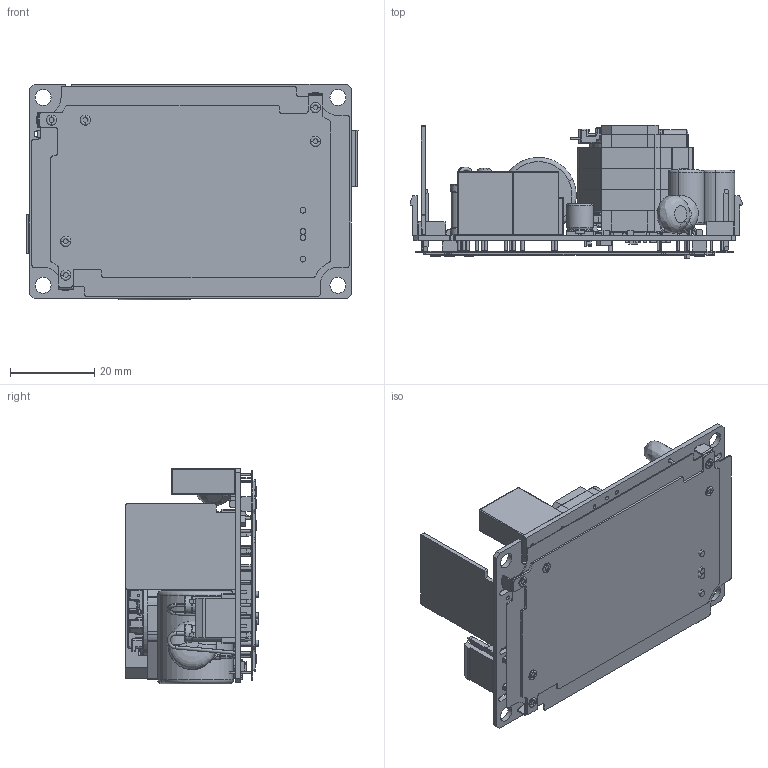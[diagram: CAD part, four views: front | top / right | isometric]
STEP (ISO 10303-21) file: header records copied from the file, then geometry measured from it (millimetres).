
FILE_DESCRIPTION((''),'2;1');
FILE_NAME('0_MEP120A24J_BNA_ASM','2022-03-28T18:36:39',('TONY.CH.YU'),(''),'CREO PARAMETRIC BY PTC INC, 2020454','CREO PARAMETRIC BY PTC INC, 2020454','');
FILE_SCHEMA(('AUTOMOTIVE_DESIGN { 1 0 10303 214 1 1 1 1 }'));
Products named in the file (111): PCB-ASSY_ASM; EDC_0167; PIN_6_0; INSULATOR; AL_METAL; ASM_SHIELD_ASM; BOARD_1; 0915082004_MNTC11_5X5X16D08P5-A; NTC1_ASM; B4P-VH_LF_SN_2_1; 3071125231_JST_B4P_VH_ASM_ASM; CN101_ASM; 140104710108; C102A_ASM; 0311004001_1206-21_1; 0311004001_1206-21_2; 0311004001_1206-21_3; 0311004001_1206-21_4; 0311004001_1206-21_ASM; R53_ASM; _0603-SCE_-_IR0603-R__1; _0603-SCE_-_IR0603-R__2; _0603-SCE_-_IR0603-R__3; _0603-SCE_-_IR0603-R__4; _0603-SCE_-_IR0603-R__ASM; R118_ASM; R117_ASM; R119_ASM; R115_ASM; R110_ASM; R109_ASM; R107_ASM; R106_ASM; 201850570136_IRSOD123_1; 201850570136_IRSOD123_2; 201850570136_IRSOD123_3; 201850570136_IRSOD123_4; 201850570136_IRSOD123_ASM; ZD31_ASM; R101_ASM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
Assembly tree (135 placements, depth 9):
  0_MEP120A24J_BNA_ASM
    PCB-ASSY_ASM
    EDC_0167
    ASM_SHIELD_ASM
      PIN_6_0  x3
      INSULATOR
      AL_METAL
    MEP-120A12J_BNAR3C0_ASM
      PCB_ASM
        BOARD_1
        NTC1_ASM
          0915082004_MNTC11_5X5X16D08P5-A
        CN101_ASM
          3071125231_JST_B4P_VH_ASM_ASM
            B4P-VH_LF_SN_2_1
        C102A_ASM
          140104710108
        R53_ASM
          0311004001_1206-21_ASM
            0311004001_1206-21_1
            0311004001_1206-21_2
            0311004001_1206-21_3
            0311004001_1206-21_4
        R118_ASM
          _0603-SCE_-_IR0603-R__ASM
            _0603-SCE_-_IR0603-R__1
            _0603-SCE_-_IR0603-R__2
            _0603-SCE_-_IR0603-R__3
            _0603-SCE_-_IR0603-R__4
        R117_ASM
          _0603-SCE_-_IR0603-R__ASM
            _0603-SCE_-_IR0603-R__1
            _0603-SCE_-_IR0603-R__2
            _0603-SCE_-_IR0603-R__3
            _0603-SCE_-_IR0603-R__4
        R119_ASM
          _0603-SCE_-_IR0603-R__ASM
            _0603-SCE_-_IR0603-R__1
            _0603-SCE_-_IR0603-R__2
            _0603-SCE_-_IR0603-R__3
            _0603-SCE_-_IR0603-R__4
        R115_ASM
          _0603-SCE_-_IR0603-R__ASM
            _0603-SCE_-_IR0603-R__1
            _0603-SCE_-_IR0603-R__2
            _0603-SCE_-_IR0603-R__3
            _0603-SCE_-_IR0603-R__4
        R110_ASM
          _0603-SCE_-_IR0603-R__ASM
            _0603-SCE_-_IR0603-R__1
            _0603-SCE_-_IR0603-R__2
            _0603-SCE_-_IR0603-R__3
            _0603-SCE_-_IR0603-R__4
        R109_ASM
          _0603-SCE_-_IR0603-R__ASM
            _0603-SCE_-_IR0603-R__1
            _0603-SCE_-_IR0603-R__2
            _0603-SCE_-_IR0603-R__3
            _0603-SCE_-_IR0603-R__4
        R107_ASM
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Bounding box: 78.7 x 31.61 x 51.1 mm (x, y, z)
Volume: 32246.5 mm3; surface area: 54317.2 mm2
Topology: 124 solids, 124 shells, 3401 faces, 8515 edges, 5326 vertices
Faces by surface type: plane 1689, cylinder 1156, torus 256, bspline 170, sphere 108, cone 18, revolution 4
Entity records: 118276 total; most frequent: CARTESIAN_POINT 25286, DIRECTION 15937, ORIENTED_EDGE 13052, EDGE_CURVE 6526, AXIS2_PLACEMENT_3D 6024, PRESENTATION_STYLE_ASSIGNMENT 4878, STYLED_ITEM 4824, CURVE_STYLE 4686
